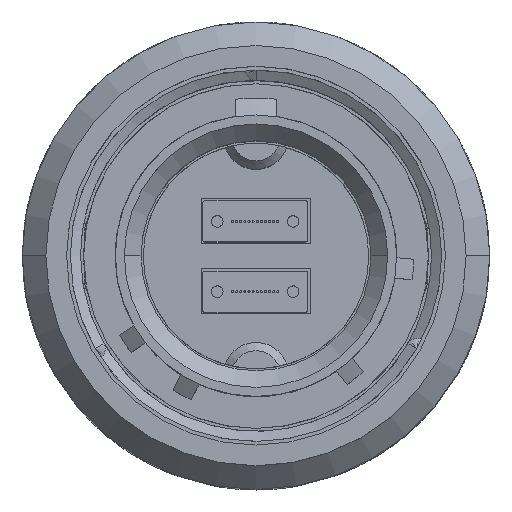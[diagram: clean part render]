
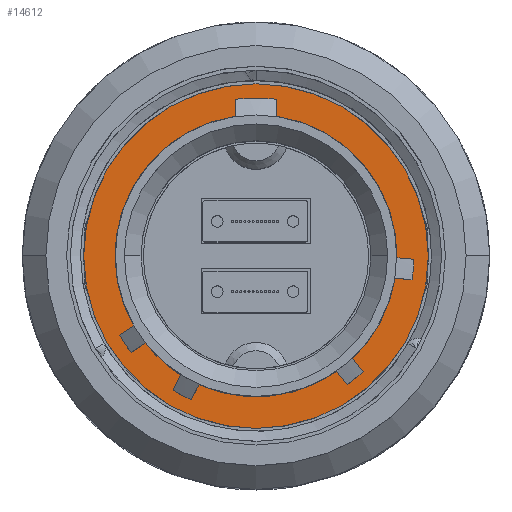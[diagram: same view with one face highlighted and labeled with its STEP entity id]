
A CAD part, top view. The second image highlights one B-rep face of the part: STEP entity #14612.
In plain terms, the highlighted planar face has unit normal (0, 0, 1).
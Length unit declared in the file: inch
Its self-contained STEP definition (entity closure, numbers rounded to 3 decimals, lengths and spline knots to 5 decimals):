
#89 = CIRCLE ( 'NONE', #13743, 0.332 ) ;
#220 = DIRECTION ( 'NONE',  ( 1., 0., 0. ) ) ;
#879 = VERTEX_POINT ( 'NONE', #5913 ) ;
#1033 = CARTESIAN_POINT ( 'NONE',  ( 0., 0., -0.593 ) ) ;
#1184 = DIRECTION ( 'NONE',  ( 0., 0., -1. ) ) ;
#1883 = CARTESIAN_POINT ( 'NONE',  ( 0., 0., -0.593 ) ) ;
#2416 = CIRCLE ( 'NONE', #16437, 0.412 ) ;
#2789 = ORIENTED_EDGE ( 'NONE', *, *, #6819, .T. ) ;
#3070 = DIRECTION ( 'NONE',  ( -1., 0., 0. ) ) ;
#3540 = CIRCLE ( 'NONE', #16556, 0.332 ) ;
#4419 = CARTESIAN_POINT ( 'NONE',  ( 0., 0.332, -0.593 ) ) ;
#4670 = VERTEX_POINT ( 'NONE', #8957 ) ;
#4681 = EDGE_CURVE ( 'NONE', #879, #14780, #3540, .T. ) ;
#5913 = CARTESIAN_POINT ( 'NONE',  ( 0.332, 0., -0.593 ) ) ;
#6118 = DIRECTION ( 'NONE',  ( 0., 0., 1. ) ) ;
#6369 = DIRECTION ( 'NONE',  ( 1., 0., 0. ) ) ;
#6391 = PLANE ( 'NONE',  #14709 ) ;
#6819 = EDGE_CURVE ( 'NONE', #13439, #4670, #10051, .T. ) ;
#7068 = CARTESIAN_POINT ( 'NONE',  ( 0.412, 0., -0.593 ) ) ;
#8957 = CARTESIAN_POINT ( 'NONE',  ( -0.412, 0., -0.593 ) ) ;
#9416 = CARTESIAN_POINT ( 'NONE',  ( 0., 0., -0.593 ) ) ;
#10051 = CIRCLE ( 'NONE', #14702, 0.412 ) ;
#11006 = FACE_OUTER_BOUND ( 'NONE', #15209, .T. ) ;
#11821 = EDGE_LOOP ( 'NONE', ( #20618, #16933 ) ) ;
#12452 = DIRECTION ( 'NONE',  ( 0., 0., 1. ) ) ;
#13439 = VERTEX_POINT ( 'NONE', #7068 ) ;
#13743 = AXIS2_PLACEMENT_3D ( 'NONE', #17077, #6118, #18745 ) ;
#13785 = DIRECTION ( 'NONE',  ( 0., 0., 1. ) ) ;
#14612 = ADVANCED_FACE ( 'NONE', ( #15595, #11006 ), #6391, .F. ) ;
#14702 = AXIS2_PLACEMENT_3D ( 'NONE', #1883, #17744, #220 ) ;
#14709 = AXIS2_PLACEMENT_3D ( 'NONE', #4419, #1184, #3070 ) ;
#14780 = VERTEX_POINT ( 'NONE', #16012 ) ;
#15209 = EDGE_LOOP ( 'NONE', ( #2789, #15363 ) ) ;
#15363 = ORIENTED_EDGE ( 'NONE', *, *, #16325, .T. ) ;
#15595 = FACE_BOUND ( 'NONE', #11821, .T. ) ;
#16012 = CARTESIAN_POINT ( 'NONE',  ( -0.332, 0., -0.593 ) ) ;
#16325 = EDGE_CURVE ( 'NONE', #4670, #13439, #2416, .T. ) ;
#16437 = AXIS2_PLACEMENT_3D ( 'NONE', #9416, #12452, #6369 ) ;
#16556 = AXIS2_PLACEMENT_3D ( 'NONE', #1033, #13785, #20123 ) ;
#16933 = ORIENTED_EDGE ( 'NONE', *, *, #17955, .F. ) ;
#17077 = CARTESIAN_POINT ( 'NONE',  ( 0., 0., -0.593 ) ) ;
#17744 = DIRECTION ( 'NONE',  ( 0., 0., 1. ) ) ;
#17955 = EDGE_CURVE ( 'NONE', #14780, #879, #89, .T. ) ;
#18745 = DIRECTION ( 'NONE',  ( 1., 0., 0. ) ) ;
#20123 = DIRECTION ( 'NONE',  ( 1., 0., 0. ) ) ;
#20618 = ORIENTED_EDGE ( 'NONE', *, *, #4681, .F. ) ;
